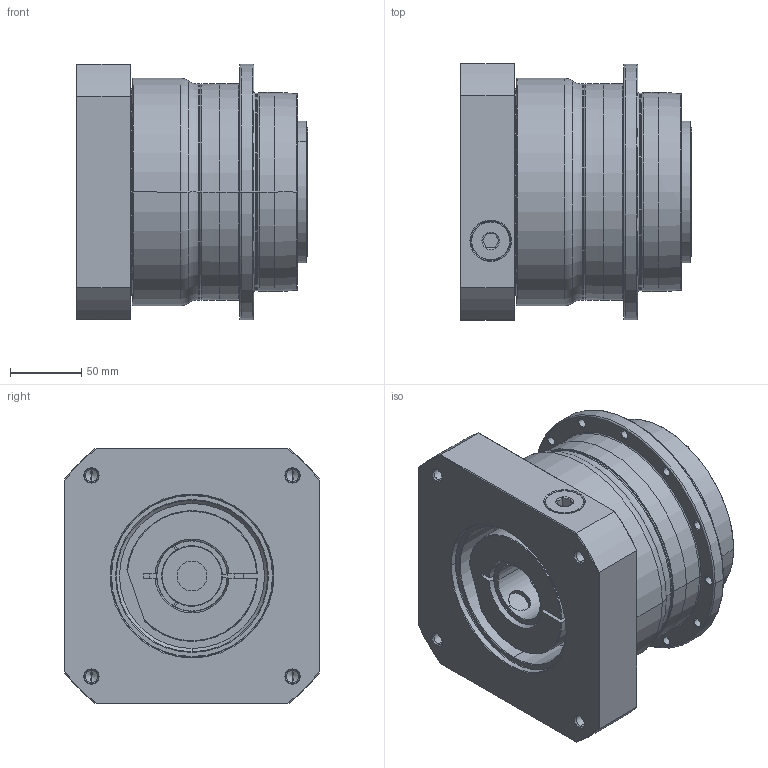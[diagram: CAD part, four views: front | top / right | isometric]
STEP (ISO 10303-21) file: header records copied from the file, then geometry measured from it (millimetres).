
FILE_DESCRIPTION((''),'2;1');
FILE_NAME('AH140_1ST_42-P0409A00101_ASM','2016-08-17T',('d00435'),(''),'PRO/ENGINEER BY PARAMETRIC TECHNOLOGY CORPORATION, 2008410','PRO/ENGINEER BY PARAMETRIC TECHNOLOGY CORPORATION, 2008410','');
FILE_SCHEMA(('CONFIG_CONTROL_DESIGN'));
Length unit declared in the file: millimetre
Products named in the file (8): P0278500003; P0359500003; P1318500501; P0409A00101; P0503A00012; P0912505201; 21711422019; AH140_1ST_42-P0409A00101_ASM
Assembly tree (7 placements, depth 2):
  AH140_1ST_42-P0409A00101_ASM
    P0278500003
    P0359500003
    P1318500501
    P0409A00101
    P0503A00012
    P0912505201
    21711422019
Bounding box: 163 x 180 x 180 mm (x, y, z)
Volume: 3010721.3 mm3; surface area: 373252.1 mm2
Topology: 8 solids, 32 shells, 611 faces, 1417 edges, 861 vertices
Faces by surface type: cylinder 254, cone 170, plane 117, torus 56, bspline 14
Entity records: 21945 total; most frequent: CARTESIAN_POINT 7644, DIRECTION 3269, ORIENTED_EDGE 2646, AXIS2_PLACEMENT_3D 1387, EDGE_CURVE 1371, VERTEX_POINT 861, CIRCLE 765, EDGE_LOOP 734
